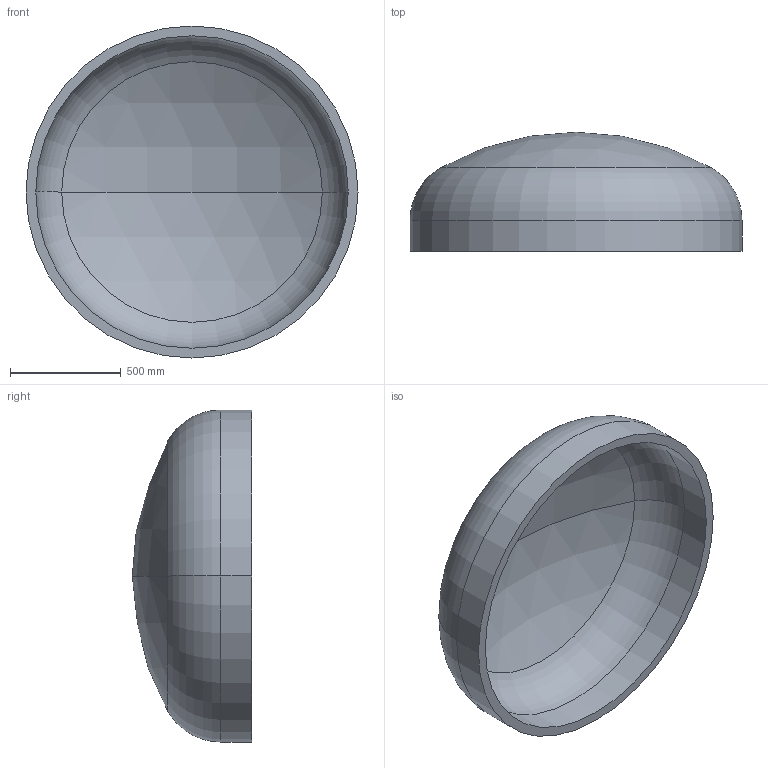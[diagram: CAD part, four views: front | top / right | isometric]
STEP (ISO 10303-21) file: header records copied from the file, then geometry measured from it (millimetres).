
FILE_DESCRIPTION (( 'STEP AP203' ), '1' );
FILE_NAME ('DIN 28013 Korbbogenform_-_Boden DIN 28013 - 1500 x 140 - I - s=44.step', '2016-07-01T10:47:00', ( '' ), ( '' ), 'SwSTEP 2.0', 'SolidWorks 2013', '' );
FILE_SCHEMA (( 'CONFIG_CONTROL_DESIGN' ));
Length unit declared in the file: millimetre
Products named in the file (1): DIN 28013 Korbbogenform_-_Boden DIN 28013 - 1500 x 140 - I - s=44
Bounding box: 1500 x 538.82 x 1500 mm (x, y, z)
Volume: 131724707.3 mm3; surface area: 6192802.8 mm2
Topology: 1 solids, 1 shells, 13 faces, 24 edges, 14 vertices
Faces by surface type: torus 4, cylinder 4, sphere 4, plane 1
Entity records: 407 total; most frequent: DIRECTION 72, CARTESIAN_POINT 52, ORIENTED_EDGE 48, AXIS2_PLACEMENT_3D 34, EDGE_CURVE 24, CIRCLE 20, VERTEX_POINT 14, EDGE_LOOP 14
